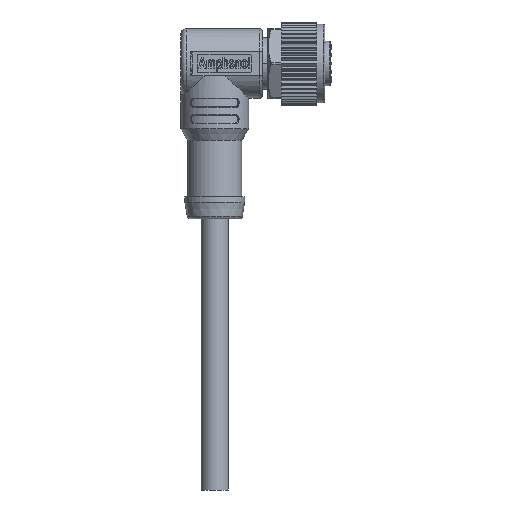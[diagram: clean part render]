
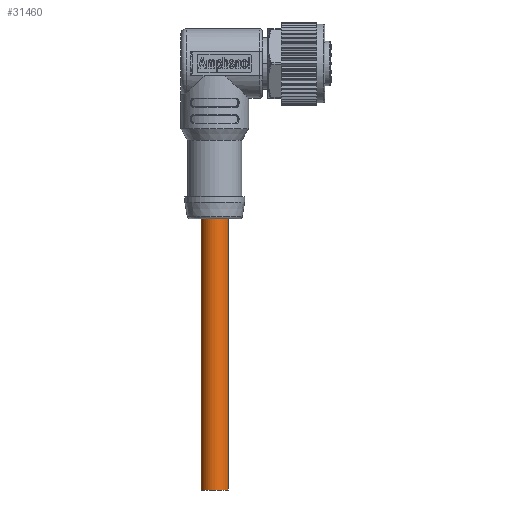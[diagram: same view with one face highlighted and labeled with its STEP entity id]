
A CAD part, front view. The second image highlights one B-rep face of the part: STEP entity #31460.
In plain terms, the highlighted cylindrical face has radius 2.5 mm (diameter 5 mm), a partial arc.
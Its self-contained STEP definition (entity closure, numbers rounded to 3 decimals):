
#8092=CARTESIAN_POINT('',(-21.25,0.,-28.6));
#8093=DIRECTION('',(0.,0.,-1.));
#8094=DIRECTION('',(1.,0.,0.));
#8095=AXIS2_PLACEMENT_3D('',#8092,#8093,#8094);
#8102=DIRECTION('',(0.,0.,-1.));
#8103=VECTOR('',#8102,50.);
#8104=CARTESIAN_POINT('',(-18.75,0.,-28.6));
#8105=LINE('',#8104,#8103);
#8106=DIRECTION('',(0.,0.,-1.));
#8107=VECTOR('',#8106,50.);
#8108=CARTESIAN_POINT('',(-23.75,0.,-28.6));
#8109=LINE('',#8108,#8107);
#8110=CARTESIAN_POINT('',(-21.25,0.,-78.6));
#8111=DIRECTION('',(0.,0.,-1.));
#8112=DIRECTION('',(1.,0.,0.));
#8113=AXIS2_PLACEMENT_3D('',#8110,#8111,#8112);
#20044=CARTESIAN_POINT('',(-18.75,0.,-78.6));
#20045=CARTESIAN_POINT('',(-23.75,0.,-78.6));
#20046=VERTEX_POINT('',#20044);
#20047=VERTEX_POINT('',#20045);
#20048=CARTESIAN_POINT('',(-18.75,0.,-28.6));
#20049=CARTESIAN_POINT('',(-23.75,0.,-28.6));
#20050=VERTEX_POINT('',#20048);
#20051=VERTEX_POINT('',#20049);
#31446=CARTESIAN_POINT('',(-21.25,0.,-18.6));
#31447=DIRECTION('',(0.,0.,-1.));
#31448=DIRECTION('',(1.,0.,0.));
#31449=AXIS2_PLACEMENT_3D('',#31446,#31447,#31448);
#31450=CYLINDRICAL_SURFACE('',#31449,2.5);
#31451=ORIENTED_EDGE('',*,*,#31432,.F.);
#31453=ORIENTED_EDGE('',*,*,#31452,.T.);
#31455=ORIENTED_EDGE('',*,*,#31454,.T.);
#31457=ORIENTED_EDGE('',*,*,#31456,.F.);
#31458=EDGE_LOOP('',(#31451,#31453,#31455,#31457));
#31459=FACE_OUTER_BOUND('',#31458,.F.);
#31460=ADVANCED_FACE('',(#31459),#31450,.T.);
#8096=CIRCLE('',#8095,2.5);
#8114=CIRCLE('',#8113,2.5);
#31432=EDGE_CURVE('',#20050,#20051,#8096,.T.);
#31452=EDGE_CURVE('',#20050,#20046,#8105,.T.);
#31454=EDGE_CURVE('',#20046,#20047,#8114,.T.);
#31456=EDGE_CURVE('',#20051,#20047,#8109,.T.);
